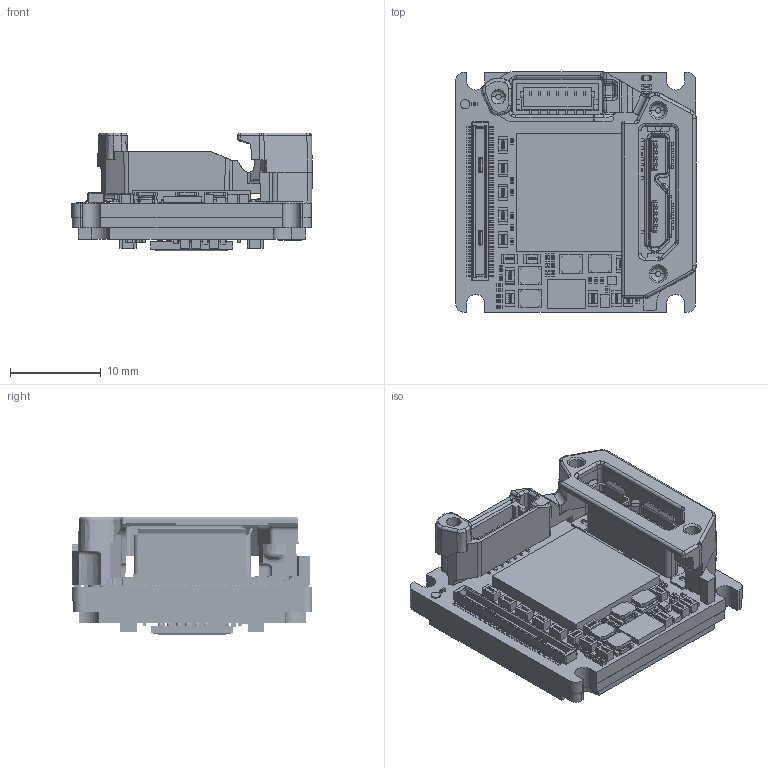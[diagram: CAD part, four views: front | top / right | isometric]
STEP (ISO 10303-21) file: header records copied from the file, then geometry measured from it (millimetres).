
FILE_DESCRIPTION (( 'STEP AP214' ), '1' );
FILE_NAME ('Alvium-USB180-Bare-Board-AR0135CS.STEP', '2022-10-24T12:37:05', ( '' ), ( '' ), 'SwSTEP 2.0', 'SolidWorks 2021', '' );
FILE_SCHEMA (( 'AUTOMOTIVE_DESIGN' ));
Length unit declared in the file: millimetre
Products named in the file (1): Alvium-USB180-Bare-Board-AR0135CS
Bounding box: 26.48 x 26.45 x 12.97 mm (x, y, z)
Volume: 3742.9 mm3; surface area: 5198.3 mm2
Topology: 157 solids, 157 shells, 9003 faces, 22717 edges, 14673 vertices
Faces by surface type: plane 4526, bspline 3377, cylinder 862, torus 166, cone 46, sphere 26
Entity records: 555768 total; most frequent: CARTESIAN_POINT 261613, ORIENTED_EDGE 45400, DIRECTION 29106, EDGE_CURVE 22700, VERTEX_POINT 14673, LINE 13734, VECTOR 13734, EDGE_LOOP 9681
